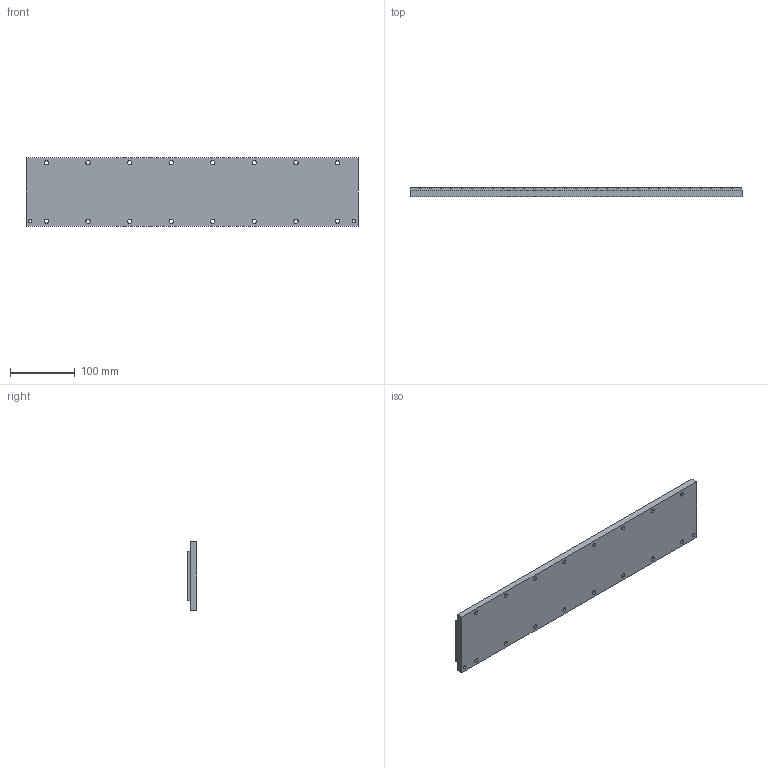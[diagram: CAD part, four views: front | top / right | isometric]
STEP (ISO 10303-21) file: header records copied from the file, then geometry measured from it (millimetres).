
FILE_DESCRIPTION((''),'2;1');
FILE_NAME('MC075-0512-WC','2007-01-14T',('saurabh.singhal'),(''),'PRO/ENGINEER BY PARAMETRIC TECHNOLOGY CORPORATION, 2005450','PRO/ENGINEER BY PARAMETRIC TECHNOLOGY CORPORATION, 2005450','');
FILE_SCHEMA(('CONFIG_CONTROL_DESIGN'));
Length unit declared in the file: millimetre
Products named in the file (1): MC075-0512-WC
Bounding box: 511.3 x 14.4 x 105 mm (x, y, z)
Volume: 673214.3 mm3; surface area: 233678 mm2
Topology: 1 solids, 1 shells, 258 faces, 624 edges, 416 vertices
Faces by surface type: plane 190, cylinder 68
Entity records: 7618 total; most frequent: CARTESIAN_POINT 1298, DIRECTION 1276, ORIENTED_EDGE 1248, EDGE_CURVE 624, VECTOR 488, LINE 488, VERTEX_POINT 416, AXIS2_PLACEMENT_3D 394
